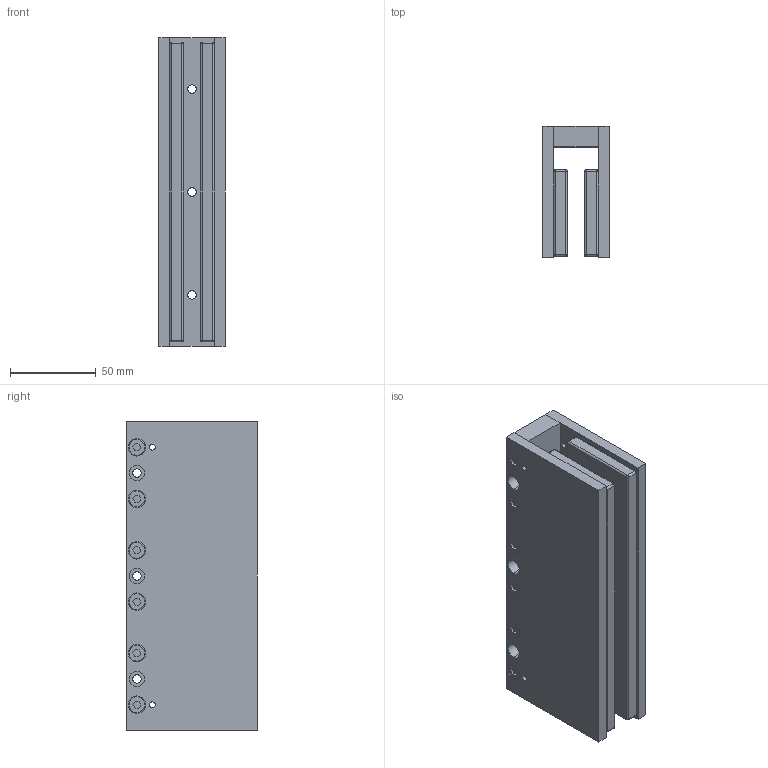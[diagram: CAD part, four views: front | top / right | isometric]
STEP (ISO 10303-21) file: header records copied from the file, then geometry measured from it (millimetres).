
FILE_DESCRIPTION (( 'STEP AP214' ), '1' );
FILE_NAME ('DX50F-TL180.step', '2021-01-04T09:38:32', ( '' ), ( '' ), 'SwSTEP 2.0', 'SolidWorks 2020', '' );
FILE_SCHEMA (( 'AUTOMOTIVE_DESIGN' ));
Length unit declared in the file: millimetre
Products named in the file (1): DX50F-TL180
Bounding box: 38.7 x 76.2 x 179.5 mm (x, y, z)
Volume: 364037.4 mm3; surface area: 83887.4 mm2
Topology: 1 solids, 7 shells, 392 faces, 854 edges, 522 vertices
Faces by surface type: plane 176, cylinder 176, torus 24, sphere 16
Entity records: 14964 total; most frequent: DIRECTION 1988, CARTESIAN_POINT 1789, ORIENTED_EDGE 1676, EDGE_CURVE 838, AXIS2_PLACEMENT_3D 769, VERTEX_POINT 522, EDGE_LOOP 480, VECTOR 450
